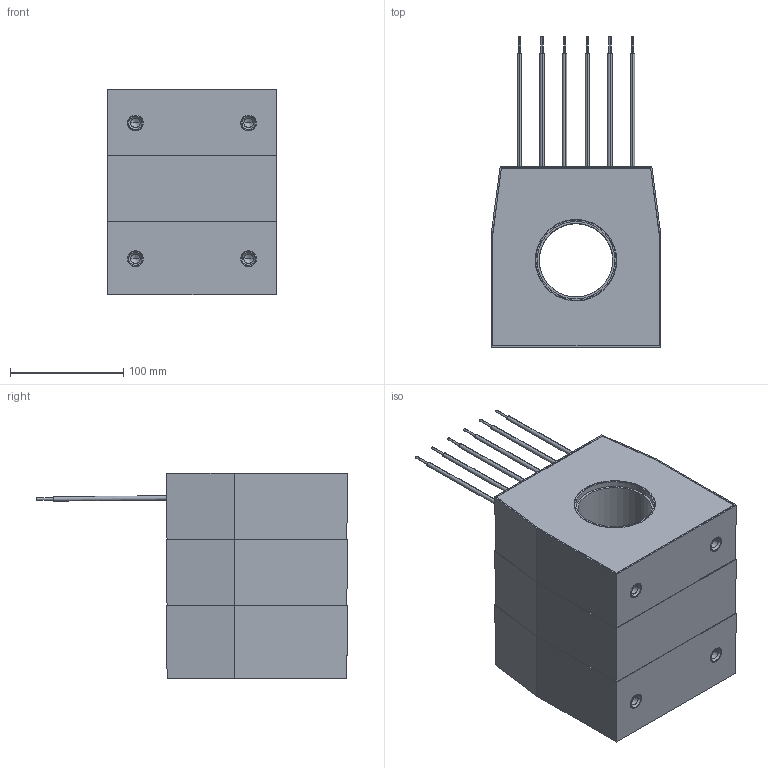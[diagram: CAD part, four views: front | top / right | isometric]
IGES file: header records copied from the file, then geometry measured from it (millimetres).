
Start section: IGES file generated from Kompas f.0 for Windows drawing by the IGES translator from Ascon Ltd., translator version IGESOUT-5.1.
Global section: file name: C:\Ðàáîòà\Èçâåùåíèÿ 5\ÒØÏ-ÍÒÇ-0.66-61...,71...,81... (ñáîðíûé)\Âåðñèÿ îò 21.05.24\3D ìîäåëü\ÒØÏ-ÍÒÇ-0,66-83Ñ\ÒØÏ-ÍÒÇ-0,66-83Ñ (65 ìì, 3-é ãàáàðèò).igs; native system: Kompas( 32 bit ) for Windows; preprocessor: 1.0; author: 123; organization: Microsoft; date: -17750727:094359; units: millimetre
Bounding box: 150 x 274.82 x 182 mm (x, y, z)
Volume: 650524.1 mm3; surface area: 426441.2 mm2
Topology: 17 solids, 17 shells, 335 faces, 771 edges, 489 vertices
Faces by surface type: revolution 180, bspline 155
